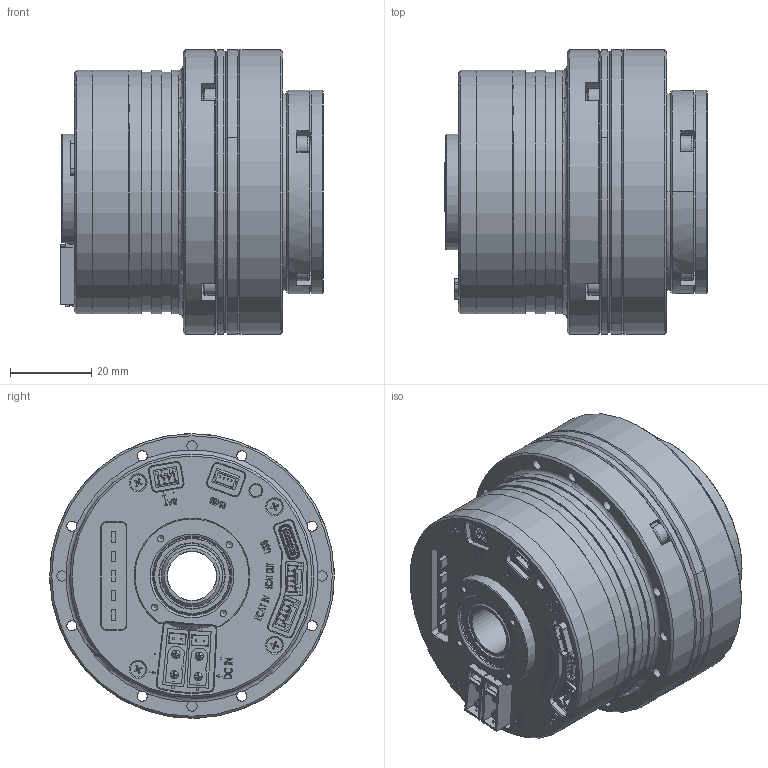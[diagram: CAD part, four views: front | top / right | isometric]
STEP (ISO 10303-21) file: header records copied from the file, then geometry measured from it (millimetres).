
FILE_DESCRIPTION( ('This file contains a STEP AP42 implementation' ,'as created by ZW3D STEP Interface translator.') ,'2;1' );
FILE_NAME( 'HJ2-142.stp' ,'25 820.151041', (''), ('ZWCAD Software Co.'), 'Version 1.0', 'ZW3D to STEP translator', '' );
FILE_SCHEMA(('AUTOMOTIVE_DESIGN { 1 0 10303 214 1 1 1 1 }'));
Length unit declared in the file: millimetre
Products named in the file (1): 0
Bounding box: 64.6 x 70 x 70 mm (x, y, z)
Volume: 196381.1 mm3; surface area: 80287.4 mm2
Topology: 69 solids, 80 shells, 5620 faces, 15165 edges, 9790 vertices
Faces by surface type: plane 4257, cylinder 661, cone 326, bspline 222, torus 120, sphere 34
Full cylindrical faces by diameter (mm): 1.6 x8, 1.74 x4, 2 x4, 2.2 x4, 2.208 x4, 2.5 x26, 2.7 x4, 3 x5, 3.5 x25, 3.8 x4, 4.5 x4, 4.7 x8, 12 x1, 15 x1, 16.108 x4, 16.33 x2, 16.956 x2, 17 x2, 19.044 x2, 19.5 x1, 19.892 x4, 21 x2, 23 x1, 30 x1, 35 x1, 40 x1, 50 x1, 57.4 x1, 57.6 x1, 58 x2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
Entity records: 180993 total; most frequent: CARTESIAN_POINT 35254, ORIENTED_EDGE 30067, DIRECTION 27051, EDGE_CURVE 15038, VECTOR 12173, LINE 12173, VERTEX_POINT 9809, AXIS2_PLACEMENT_3D 7439
